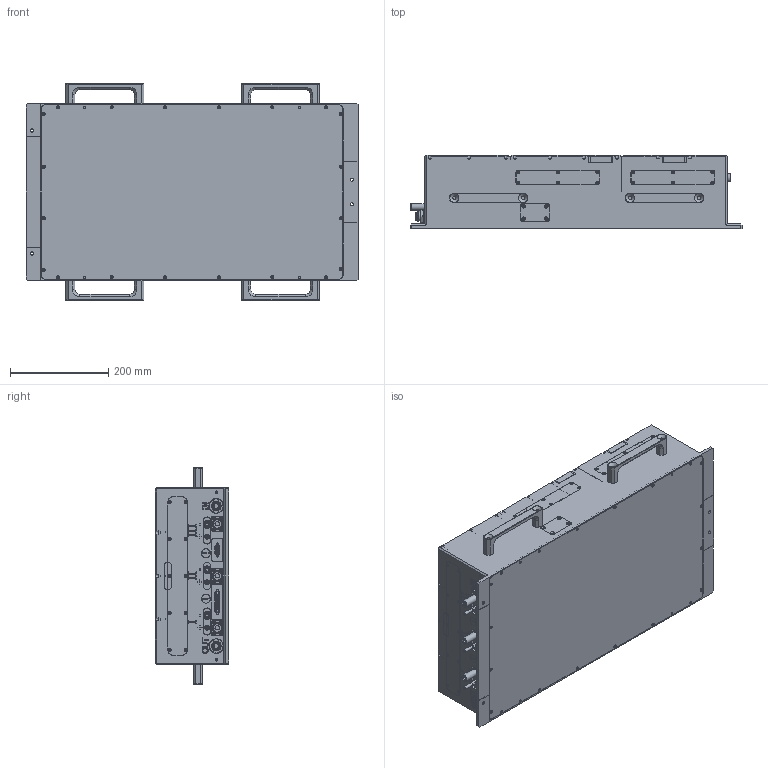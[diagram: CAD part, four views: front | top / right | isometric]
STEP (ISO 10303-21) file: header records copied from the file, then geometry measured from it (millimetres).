
FILE_DESCRIPTION(/* description */ (''),/* implementation_level */ '2;1');
FILE_NAME(/* name */ 'D:\Inventor\IS800 Stabel Isolator\#2018.02.19 - Redesign GX800 only big heat sinks\#Lasermodell Kunde\GX.stp',/* time_stamp */ '2018-07-06T11:21:01+02:00',/* author */ ('Alex'),/* organization */ (''),/* preprocessor_version */ 'ST-DEVELOPER v16.5',/* originating_system */ 'Autodesk Inventor 2017',/* authorisation */ '');
FILE_SCHEMA (('AUTOMOTIVE_DESIGN { 1 0 10303 214 3 1 1 }'));
Products named in the file (1): GX
Bounding box: 675 x 149.5 x 440 mm (x, y, z)
Volume: 33118885.5 mm3; surface area: 1132438.7 mm2
Topology: 1 solids, 28 shells, 3224 faces, 7945 edges, 5114 vertices
Faces by surface type: plane 1564, cylinder 970, cone 419, bspline 202, torus 69
Full cylindrical faces by diameter (mm): 0.85 x15, 1.01 x25, 2.459 x102, 3.2 x5, 3.242 x10, 3.4 x116, 3.5 x24, 3.7 x4, 4 x1, 4.134 x2, 4.2 x3, 4.5 x23, 4.917 x10, 6 x9, 6.6 x4, 6.647 x16, 7.5 x3, 8 x7, 8.917 x4, 9 x8, 10 x11, 10.106 x1, 10.75 x2, 11 x4, 13 x2, 13.8 x3, 14 x1, 14.2 x3, 15.2 x2, 16 x2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
Entity records: 108479 total; most frequent: CARTESIAN_POINT 36535, DIRECTION 14697, ORIENTED_EDGE 13468, EDGE_CURVE 6731, AXIS2_PLACEMENT_3D 5604, VERTEX_POINT 4724, EDGE_LOOP 4501, LINE 3489
